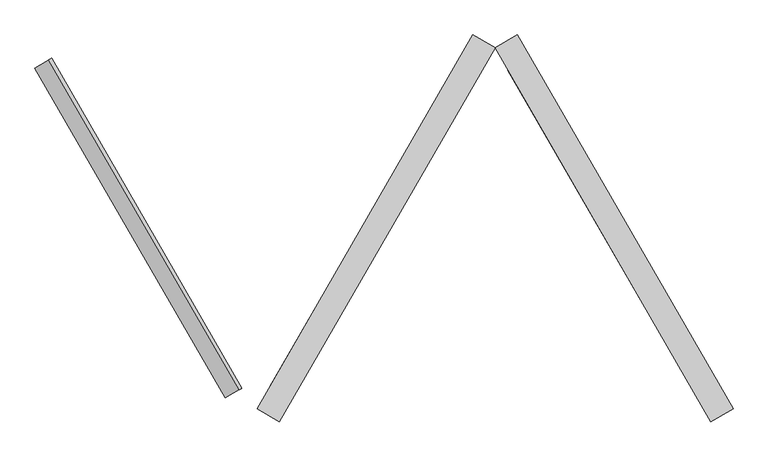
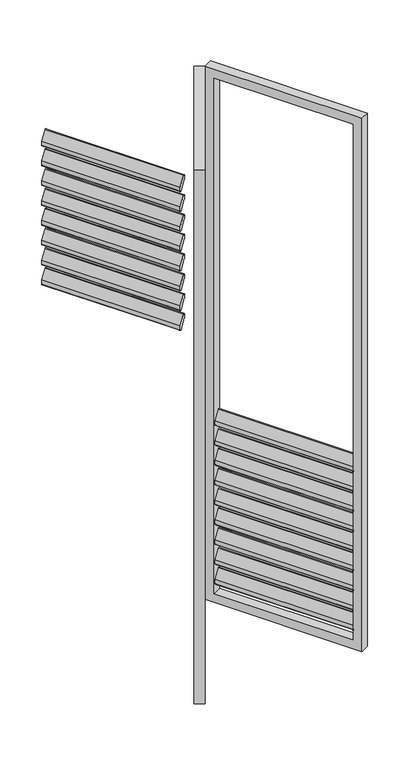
"""IFC4 building model written with IfcOpenShell, lengths in millimetres: proxy geometry, Renson_Amani_Loggia_Paro_Aluminium_Folding : Renson_Amani_Loggia_Paro_Aluminium_Folding."""

from ifc_helpers import new_model, si_unit, point, frame, frame_2d, origin, place, context, project, spatial, polyline, circle_curve, trimmed, segment, composite_curve, outline, extrude, source, transform, mapped, element, save


def generic_models_da8762af(model_context):
    return source(origin(), model_context, "Body", "SweptSolid", [
        extrude(outline(composite_curve([segment(polyline([(-44.0658831, 0.0), (0.8886405, 0.0), (17.0325667, -10.4839883)]), True, "CONTINUOUS"), segment(trimmed(circle_curve(frame_2d((15.3986496, -13.0)), 3.0), [point((17.0325667, -10.4839883))], [point((15.3986496, -16.0))], False, "CARTESIAN"), True, "CONTINUOUS"), segment(polyline([(15.3986496, -16.0), (-28.6672334, -16.0)]), True, "CONTINUOUS"), segment(trimmed(circle_curve(frame_2d((-28.6672334, -13.0)), 3.0), [point((-28.6672334, -16.0))], [point((-30.3011505, -15.5160117))], False, "CARTESIAN"), True, "CONTINUOUS"), segment(polyline([(-30.3011505, -15.5160117), (-45.6998002, -5.5160117)]), True, "CONTINUOUS"), segment(trimmed(circle_curve(frame_2d((-44.0658831, -3.0)), 3.0), [point((-45.6998002, -5.5160117))], [point((-44.0658831, 0.0))], False, "CARTESIAN"), True, "CONTINUOUS")], self_intersect=False)), frame((1067.1094572, 37.7168064, 867.3359298), z_axis=(-0.5000000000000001, 0.8660254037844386, 0.0), x_axis=(-0.47167124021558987, -0.2723195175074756, -0.8386705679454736)), (0.0, 0.0, 1.0), 595.0),
        extrude(outline(composite_curve([segment(polyline([(-44.0658831, 0.0), (0.8886405, 0.0), (17.0325667, -10.4839883)]), True, "CONTINUOUS"), segment(trimmed(circle_curve(frame_2d((15.3986496, -13.0)), 3.0), [point((17.0325667, -10.4839883))], [point((15.3986496, -16.0))], False, "CARTESIAN"), True, "CONTINUOUS"), segment(polyline([(15.3986496, -16.0), (-28.6672334, -16.0)]), True, "CONTINUOUS"), segment(trimmed(circle_curve(frame_2d((-28.6672334, -13.0)), 3.0), [point((-28.6672334, -16.0))], [point((-30.3011505, -15.5160117))], False, "CARTESIAN"), True, "CONTINUOUS"), segment(polyline([(-30.3011505, -15.5160117), (-45.6998002, -5.5160117)]), True, "CONTINUOUS"), segment(trimmed(circle_curve(frame_2d((-44.0658831, -3.0)), 3.0), [point((-45.6998002, -5.5160117))], [point((-44.0658831, 0.0))], False, "CARTESIAN"), True, "CONTINUOUS")], self_intersect=False)), frame((1067.1094572, 37.7168064, 777.3359298), z_axis=(-0.5000000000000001, 0.8660254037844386, 0.0), x_axis=(-0.47167124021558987, -0.2723195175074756, -0.8386705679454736)), (0.0, 0.0, 1.0), 595.0),
        extrude(outline(composite_curve([segment(polyline([(-44.0658831, 0.0), (0.8886405, 0.0), (17.0325667, -10.4839883)]), True, "CONTINUOUS"), segment(trimmed(circle_curve(frame_2d((15.3986496, -13.0)), 3.0), [point((17.0325667, -10.4839883))], [point((15.3986496, -16.0))], False, "CARTESIAN"), True, "CONTINUOUS"), segment(polyline([(15.3986496, -16.0), (-28.6672334, -16.0)]), True, "CONTINUOUS"), segment(trimmed(circle_curve(frame_2d((-28.6672334, -13.0)), 3.0), [point((-28.6672334, -16.0))], [point((-30.3011505, -15.5160117))], False, "CARTESIAN"), True, "CONTINUOUS"), segment(polyline([(-30.3011505, -15.5160117), (-45.6998002, -5.5160117)]), True, "CONTINUOUS"), segment(trimmed(circle_curve(frame_2d((-44.0658831, -3.0)), 3.0), [point((-45.6998002, -5.5160117))], [point((-44.0658831, 0.0))], False, "CARTESIAN"), True, "CONTINUOUS")], self_intersect=False)), frame((1067.1094572, 37.7168064, 687.3359298), z_axis=(-0.5000000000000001, 0.8660254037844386, 0.0), x_axis=(-0.47167124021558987, -0.2723195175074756, -0.8386705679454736)), (0.0, 0.0, 1.0), 595.0),
        extrude(outline(composite_curve([segment(polyline([(-44.0658831, 0.0), (0.8886405, 0.0), (17.0325667, -10.4839883)]), True, "CONTINUOUS"), segment(trimmed(circle_curve(frame_2d((15.3986496, -13.0)), 3.0), [point((17.0325667, -10.4839883))], [point((15.3986496, -16.0))], False, "CARTESIAN"), True, "CONTINUOUS"), segment(polyline([(15.3986496, -16.0), (-28.6672334, -16.0)]), True, "CONTINUOUS"), segment(trimmed(circle_curve(frame_2d((-28.6672334, -13.0)), 3.0), [point((-28.6672334, -16.0))], [point((-30.3011505, -15.5160117))], False, "CARTESIAN"), True, "CONTINUOUS"), segment(polyline([(-30.3011505, -15.5160117), (-45.6998002, -5.5160117)]), True, "CONTINUOUS"), segment(trimmed(circle_curve(frame_2d((-44.0658831, -3.0)), 3.0), [point((-45.6998002, -5.5160117))], [point((-44.0658831, 0.0))], False, "CARTESIAN"), True, "CONTINUOUS")], self_intersect=False)), frame((1067.1094572, 37.7168064, 597.3359298), z_axis=(-0.5000000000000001, 0.8660254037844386, 0.0), x_axis=(-0.47167124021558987, -0.2723195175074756, -0.8386705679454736)), (0.0, 0.0, 1.0), 595.0),
        extrude(outline(composite_curve([segment(polyline([(-44.0658831, 0.0), (0.8886405, 0.0), (17.0325667, -10.4839883)]), True, "CONTINUOUS"), segment(trimmed(circle_curve(frame_2d((15.3986496, -13.0)), 3.0), [point((17.0325667, -10.4839883))], [point((15.3986496, -16.0))], False, "CARTESIAN"), True, "CONTINUOUS"), segment(polyline([(15.3986496, -16.0), (-28.6672334, -16.0)]), True, "CONTINUOUS"), segment(trimmed(circle_curve(frame_2d((-28.6672334, -13.0)), 3.0), [point((-28.6672334, -16.0))], [point((-30.3011505, -15.5160117))], False, "CARTESIAN"), True, "CONTINUOUS"), segment(polyline([(-30.3011505, -15.5160117), (-45.6998002, -5.5160117)]), True, "CONTINUOUS"), segment(trimmed(circle_curve(frame_2d((-44.0658831, -3.0)), 3.0), [point((-45.6998002, -5.5160117))], [point((-44.0658831, 0.0))], False, "CARTESIAN"), True, "CONTINUOUS")], self_intersect=False)), frame((1067.1094572, 37.7168064, 507.3359298), z_axis=(-0.5000000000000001, 0.8660254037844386, 0.0), x_axis=(-0.47167124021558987, -0.2723195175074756, -0.8386705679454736)), (0.0, 0.0, 1.0), 595.0),
        extrude(outline(composite_curve([segment(polyline([(-44.0658831, 0.0), (0.8886405, 0.0), (17.0325667, -10.4839883)]), True, "CONTINUOUS"), segment(trimmed(circle_curve(frame_2d((15.3986496, -13.0)), 3.0), [point((17.0325667, -10.4839883))], [point((15.3986496, -16.0))], False, "CARTESIAN"), True, "CONTINUOUS"), segment(polyline([(15.3986496, -16.0), (-28.6672334, -16.0)]), True, "CONTINUOUS"), segment(trimmed(circle_curve(frame_2d((-28.6672334, -13.0)), 3.0), [point((-28.6672334, -16.0))], [point((-30.3011505, -15.5160117))], False, "CARTESIAN"), True, "CONTINUOUS"), segment(polyline([(-30.3011505, -15.5160117), (-45.6998002, -5.5160117)]), True, "CONTINUOUS"), segment(trimmed(circle_curve(frame_2d((-44.0658831, -3.0)), 3.0), [point((-45.6998002, -5.5160117))], [point((-44.0658831, 0.0))], False, "CARTESIAN"), True, "CONTINUOUS")], self_intersect=False)), frame((1067.1094572, 37.7168064, 417.3359298), z_axis=(-0.5000000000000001, 0.8660254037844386, 0.0), x_axis=(-0.47167124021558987, -0.2723195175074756, -0.8386705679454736)), (0.0, 0.0, 1.0), 595.0),
        extrude(outline(composite_curve([segment(polyline([(-44.0658831, 0.0), (0.8886405, 0.0), (17.0325667, -10.4839883)]), True, "CONTINUOUS"), segment(trimmed(circle_curve(frame_2d((15.3986496, -13.0)), 3.0), [point((17.0325667, -10.4839883))], [point((15.3986496, -16.0))], False, "CARTESIAN"), True, "CONTINUOUS"), segment(polyline([(15.3986496, -16.0), (-28.6672334, -16.0)]), True, "CONTINUOUS"), segment(trimmed(circle_curve(frame_2d((-28.6672334, -13.0)), 3.0), [point((-28.6672334, -16.0))], [point((-30.3011505, -15.5160117))], False, "CARTESIAN"), True, "CONTINUOUS"), segment(polyline([(-30.3011505, -15.5160117), (-45.6998002, -5.5160117)]), True, "CONTINUOUS"), segment(trimmed(circle_curve(frame_2d((-44.0658831, -3.0)), 3.0), [point((-45.6998002, -5.5160117))], [point((-44.0658831, 0.0))], False, "CARTESIAN"), True, "CONTINUOUS")], self_intersect=False)), frame((1067.1094572, 37.7168064, 327.3359298), z_axis=(-0.5000000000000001, 0.8660254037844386, 0.0), x_axis=(-0.47167124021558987, -0.2723195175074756, -0.8386705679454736)), (0.0, 0.0, 1.0), 595.0),
        extrude(outline(composite_curve([segment(polyline([(-44.0658831, 0.0), (0.8886405, 0.0), (17.0325667, -10.4839883)]), True, "CONTINUOUS"), segment(trimmed(circle_curve(frame_2d((15.3986496, -13.0)), 3.0), [point((17.0325667, -10.4839883))], [point((15.3986496, -16.0))], False, "CARTESIAN"), True, "CONTINUOUS"), segment(polyline([(15.3986496, -16.0), (-28.6672334, -16.0)]), True, "CONTINUOUS"), segment(trimmed(circle_curve(frame_2d((-28.6672334, -13.0)), 3.0), [point((-28.6672334, -16.0))], [point((-30.3011505, -15.5160117))], False, "CARTESIAN"), True, "CONTINUOUS"), segment(polyline([(-30.3011505, -15.5160117), (-45.6998002, -5.5160117)]), True, "CONTINUOUS"), segment(trimmed(circle_curve(frame_2d((-44.0658831, -3.0)), 3.0), [point((-45.6998002, -5.5160117))], [point((-44.0658831, 0.0))], False, "CARTESIAN"), True, "CONTINUOUS")], self_intersect=False)), frame((1067.1094572, 37.7168064, 237.3359298), z_axis=(-0.5000000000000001, 0.8660254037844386, 0.0), x_axis=(-0.47167124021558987, -0.2723195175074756, -0.8386705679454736)), (0.0, 0.0, 1.0), 595.0),
        extrude(outline(composite_curve([segment(polyline([(-44.0658831, 0.0), (0.8886405, 0.0), (17.0325667, -10.4839883)]), True, "CONTINUOUS"), segment(trimmed(circle_curve(frame_2d((15.3986496, -13.0)), 3.0), [point((17.0325667, -10.4839883))], [point((15.3986496, -16.0))], False, "CARTESIAN"), True, "CONTINUOUS"), segment(polyline([(15.3986496, -16.0), (-28.6672334, -16.0)]), True, "CONTINUOUS"), segment(trimmed(circle_curve(frame_2d((-28.6672334, -13.0)), 3.0), [point((-28.6672334, -16.0))], [point((-30.3011505, -15.5160117))], False, "CARTESIAN"), True, "CONTINUOUS"), segment(polyline([(-30.3011505, -15.5160117), (-45.6998002, -5.5160117)]), True, "CONTINUOUS"), segment(trimmed(circle_curve(frame_2d((-44.0658831, -3.0)), 3.0), [point((-45.6998002, -5.5160117))], [point((-44.0658831, 0.0))], False, "CARTESIAN"), True, "CONTINUOUS")], self_intersect=False)), frame((1067.1094572, 37.7168064, 147.3359298), z_axis=(-0.5000000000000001, 0.8660254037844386, 0.0), x_axis=(-0.47167124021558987, -0.2723195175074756, -0.8386705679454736)), (0.0, 0.0, 1.0), 595.0),
        extrude(outline(polyline([(2380.0, -40.0), (-40.0, -40.0), (-40.0, 635.0), (2380.0, 635.0), (2380.0, -40.0)]), holes=[polyline([(2340.0, 595.0), (0.0, 595.0), (0.0, 0.0), (2340.0, 0.0), (2340.0, 595.0)])]), frame((764.2820323, 549.9261314, 85.0), z_axis=(0.8660254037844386, 0.5000000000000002, 0.0), x_axis=(0.0, 0.0, 1.0)), (0.0, 0.0, 1.0), 40.0),
        extrude(outline(composite_curve([segment(trimmed(circle_curve(frame_2d((44.0658831, -3.0)), 3.0), [point((44.0658831, 0.0))], [point((45.6998002, -5.5160117))], False, "CARTESIAN"), True, "CONTINUOUS"), segment(polyline([(45.6998002, -5.5160117), (30.3011505, -15.5160117)]), True, "CONTINUOUS"), segment(trimmed(circle_curve(frame_2d((28.6672334, -13.0)), 3.0), [point((30.3011505, -15.5160117))], [point((28.6672334, -16.0))], False, "CARTESIAN"), True, "CONTINUOUS"), segment(polyline([(28.6672334, -16.0), (-15.3986496, -16.0)]), True, "CONTINUOUS"), segment(trimmed(circle_curve(frame_2d((-15.3986496, -13.0)), 3.0), [point((-15.3986496, -16.0))], [point((-17.0325667, -10.4839883))], False, "CARTESIAN"), True, "CONTINUOUS"), segment(polyline([(-17.0325667, -10.4839883), (-0.8886405, 0.0), (44.0658831, 0.0)]), True, "CONTINUOUS")], self_intersect=False)), frame((421.4546074, 37.7168064, 2397.3359298), z_axis=(0.5000000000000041, 0.8660254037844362, 0.0), x_axis=(-0.47167124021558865, 0.2723195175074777, 0.8386705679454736)), (0.0, 0.0, 1.0), 595.0),
        extrude(outline(composite_curve([segment(trimmed(circle_curve(frame_2d((44.0658831, -3.0)), 3.0), [point((44.0658831, 0.0))], [point((45.6998002, -5.5160117))], False, "CARTESIAN"), True, "CONTINUOUS"), segment(polyline([(45.6998002, -5.5160117), (30.3011505, -15.5160117)]), True, "CONTINUOUS"), segment(trimmed(circle_curve(frame_2d((28.6672334, -13.0)), 3.0), [point((30.3011505, -15.5160117))], [point((28.6672334, -16.0))], False, "CARTESIAN"), True, "CONTINUOUS"), segment(polyline([(28.6672334, -16.0), (-15.3986496, -16.0)]), True, "CONTINUOUS"), segment(trimmed(circle_curve(frame_2d((-15.3986496, -13.0)), 3.0), [point((-15.3986496, -16.0))], [point((-17.0325667, -10.4839883))], False, "CARTESIAN"), True, "CONTINUOUS"), segment(polyline([(-17.0325667, -10.4839883), (-0.8886405, 0.0), (44.0658831, 0.0)]), True, "CONTINUOUS")], self_intersect=False)), frame((421.4546074, 37.7168064, 2307.3359298), z_axis=(0.5000000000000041, 0.8660254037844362, 0.0), x_axis=(-0.47167124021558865, 0.2723195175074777, 0.8386705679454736)), (0.0, 0.0, 1.0), 595.0),
        extrude(outline(composite_curve([segment(trimmed(circle_curve(frame_2d((44.0658831, -3.0)), 3.0), [point((44.0658831, 0.0))], [point((45.6998002, -5.5160117))], False, "CARTESIAN"), True, "CONTINUOUS"), segment(polyline([(45.6998002, -5.5160117), (30.3011505, -15.5160117)]), True, "CONTINUOUS"), segment(trimmed(circle_curve(frame_2d((28.6672334, -13.0)), 3.0), [point((30.3011505, -15.5160117))], [point((28.6672334, -16.0))], False, "CARTESIAN"), True, "CONTINUOUS"), segment(polyline([(28.6672334, -16.0), (-15.3986496, -16.0)]), True, "CONTINUOUS"), segment(trimmed(circle_curve(frame_2d((-15.3986496, -13.0)), 3.0), [point((-15.3986496, -16.0))], [point((-17.0325667, -10.4839883))], False, "CARTESIAN"), True, "CONTINUOUS"), segment(polyline([(-17.0325667, -10.4839883), (-0.8886405, 0.0), (44.0658831, 0.0)]), True, "CONTINUOUS")], self_intersect=False)), frame((421.4546074, 37.7168064, 2217.3359298), z_axis=(0.5000000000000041, 0.8660254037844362, 0.0), x_axis=(-0.47167124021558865, 0.2723195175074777, 0.8386705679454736)), (0.0, 0.0, 1.0), 595.0),
        extrude(outline(composite_curve([segment(trimmed(circle_curve(frame_2d((44.0658831, -3.0)), 3.0), [point((44.0658831, 0.0))], [point((45.6998002, -5.5160117))], False, "CARTESIAN"), True, "CONTINUOUS"), segment(polyline([(45.6998002, -5.5160117), (30.3011505, -15.5160117)]), True, "CONTINUOUS"), segment(trimmed(circle_curve(frame_2d((28.6672334, -13.0)), 3.0), [point((30.3011505, -15.5160117))], [point((28.6672334, -16.0))], False, "CARTESIAN"), True, "CONTINUOUS"), segment(polyline([(28.6672334, -16.0), (-15.3986496, -16.0)]), True, "CONTINUOUS"), segment(trimmed(circle_curve(frame_2d((-15.3986496, -13.0)), 3.0), [point((-15.3986496, -16.0))], [point((-17.0325667, -10.4839883))], False, "CARTESIAN"), True, "CONTINUOUS"), segment(polyline([(-17.0325667, -10.4839883), (-0.8886405, 0.0), (44.0658831, 0.0)]), True, "CONTINUOUS")], self_intersect=False)), frame((421.4546074, 37.7168064, 2127.3359298), z_axis=(0.5000000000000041, 0.8660254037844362, 0.0), x_axis=(-0.47167124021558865, 0.2723195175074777, 0.8386705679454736)), (0.0, 0.0, 1.0), 595.0),
        extrude(outline(composite_curve([segment(trimmed(circle_curve(frame_2d((44.0658831, -3.0)), 3.0), [point((44.0658831, 0.0))], [point((45.6998002, -5.5160117))], False, "CARTESIAN"), True, "CONTINUOUS"), segment(polyline([(45.6998002, -5.5160117), (30.3011505, -15.5160117)]), True, "CONTINUOUS"), segment(trimmed(circle_curve(frame_2d((28.6672334, -13.0)), 3.0), [point((30.3011505, -15.5160117))], [point((28.6672334, -16.0))], False, "CARTESIAN"), True, "CONTINUOUS"), segment(polyline([(28.6672334, -16.0), (-15.3986496, -16.0)]), True, "CONTINUOUS"), segment(trimmed(circle_curve(frame_2d((-15.3986496, -13.0)), 3.0), [point((-15.3986496, -16.0))], [point((-17.0325667, -10.4839883))], False, "CARTESIAN"), True, "CONTINUOUS"), segment(polyline([(-17.0325667, -10.4839883), (-0.8886405, 0.0), (44.0658831, 0.0)]), True, "CONTINUOUS")], self_intersect=False)), frame((421.4546074, 37.7168064, 2037.3359298), z_axis=(0.5000000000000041, 0.8660254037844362, 0.0), x_axis=(-0.47167124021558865, 0.2723195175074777, 0.8386705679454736)), (0.0, 0.0, 1.0), 595.0),
        extrude(outline(composite_curve([segment(trimmed(circle_curve(frame_2d((44.0658831, -3.0)), 3.0), [point((44.0658831, 0.0))], [point((45.6998002, -5.5160117))], False, "CARTESIAN"), True, "CONTINUOUS"), segment(polyline([(45.6998002, -5.5160117), (30.3011505, -15.5160117)]), True, "CONTINUOUS"), segment(trimmed(circle_curve(frame_2d((28.6672334, -13.0)), 3.0), [point((30.3011505, -15.5160117))], [point((28.6672334, -16.0))], False, "CARTESIAN"), True, "CONTINUOUS"), segment(polyline([(28.6672334, -16.0), (-15.3986496, -16.0)]), True, "CONTINUOUS"), segment(trimmed(circle_curve(frame_2d((-15.3986496, -13.0)), 3.0), [point((-15.3986496, -16.0))], [point((-17.0325667, -10.4839883))], False, "CARTESIAN"), True, "CONTINUOUS"), segment(polyline([(-17.0325667, -10.4839883), (-0.8886405, 0.0), (44.0658831, 0.0)]), True, "CONTINUOUS")], self_intersect=False)), frame((421.4546074, 37.7168064, 1947.3359298), z_axis=(0.5000000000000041, 0.8660254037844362, 0.0), x_axis=(-0.47167124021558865, 0.2723195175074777, 0.8386705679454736)), (0.0, 0.0, 1.0), 595.0),
        extrude(outline(composite_curve([segment(trimmed(circle_curve(frame_2d((44.0658831, -3.0)), 3.0), [point((44.0658831, 0.0))], [point((45.6998002, -5.5160117))], False, "CARTESIAN"), True, "CONTINUOUS"), segment(polyline([(45.6998002, -5.5160117), (30.3011505, -15.5160117)]), True, "CONTINUOUS"), segment(trimmed(circle_curve(frame_2d((28.6672334, -13.0)), 3.0), [point((30.3011505, -15.5160117))], [point((28.6672334, -16.0))], False, "CARTESIAN"), True, "CONTINUOUS"), segment(polyline([(28.6672334, -16.0), (-15.3986496, -16.0)]), True, "CONTINUOUS"), segment(trimmed(circle_curve(frame_2d((-15.3986496, -13.0)), 3.0), [point((-15.3986496, -16.0))], [point((-17.0325667, -10.4839883))], False, "CARTESIAN"), True, "CONTINUOUS"), segment(polyline([(-17.0325667, -10.4839883), (-0.8886405, 0.0), (44.0658831, 0.0)]), True, "CONTINUOUS")], self_intersect=False)), frame((421.4546074, 37.7168064, 1857.3359298), z_axis=(0.5000000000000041, 0.8660254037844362, 0.0), x_axis=(-0.47167124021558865, 0.2723195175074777, 0.8386705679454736)), (0.0, 0.0, 1.0), 595.0),
        extrude(outline(composite_curve([segment(trimmed(circle_curve(frame_2d((44.0658831, -3.0)), 3.0), [point((44.0658831, 0.0))], [point((45.6998002, -5.5160117))], False, "CARTESIAN"), True, "CONTINUOUS"), segment(polyline([(45.6998002, -5.5160117), (30.3011505, -15.5160117)]), True, "CONTINUOUS"), segment(trimmed(circle_curve(frame_2d((28.6672334, -13.0)), 3.0), [point((30.3011505, -15.5160117))], [point((28.6672334, -16.0))], False, "CARTESIAN"), True, "CONTINUOUS"), segment(polyline([(28.6672334, -16.0), (-15.3986496, -16.0)]), True, "CONTINUOUS"), segment(trimmed(circle_curve(frame_2d((-15.3986496, -13.0)), 3.0), [point((-15.3986496, -16.0))], [point((-17.0325667, -10.4839883))], False, "CARTESIAN"), True, "CONTINUOUS"), segment(polyline([(-17.0325667, -10.4839883), (-0.8886405, 0.0), (44.0658831, 0.0)]), True, "CONTINUOUS")], self_intersect=False)), frame((421.4546074, 37.7168064, 1767.3359298), z_axis=(0.5000000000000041, 0.8660254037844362, 0.0), x_axis=(-0.47167124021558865, 0.2723195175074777, 0.8386705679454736)), (0.0, 0.0, 1.0), 595.0),
        extrude(outline(composite_curve([segment(trimmed(circle_curve(frame_2d((44.0658831, -3.0)), 3.0), [point((44.0658831, 0.0))], [point((45.6998002, -5.5160117))], False, "CARTESIAN"), True, "CONTINUOUS"), segment(polyline([(45.6998002, -5.5160117), (30.3011505, -15.5160117)]), True, "CONTINUOUS"), segment(trimmed(circle_curve(frame_2d((28.6672334, -13.0)), 3.0), [point((30.3011505, -15.5160117))], [point((28.6672334, -16.0))], False, "CARTESIAN"), True, "CONTINUOUS"), segment(polyline([(28.6672334, -16.0), (-15.3986496, -16.0)]), True, "CONTINUOUS"), segment(trimmed(circle_curve(frame_2d((-15.3986496, -13.0)), 3.0), [point((-15.3986496, -16.0))], [point((-17.0325667, -10.4839883))], False, "CARTESIAN"), True, "CONTINUOUS"), segment(polyline([(-17.0325667, -10.4839883), (-0.8886405, 0.0), (44.0658831, 0.0)]), True, "CONTINUOUS")], self_intersect=False)), frame((421.4546074, 37.7168064, 1677.3359298), z_axis=(0.5000000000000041, 0.8660254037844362, 0.0), x_axis=(-0.47167124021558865, 0.2723195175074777, 0.8386705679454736)), (0.0, 0.0, 1.0), 595.0),
        extrude(outline(composite_curve([segment(trimmed(circle_curve(frame_2d((44.0658831, -3.0)), 3.0), [point((44.0658831, 0.0))], [point((45.6998002, -5.5160117))], False, "CARTESIAN"), True, "CONTINUOUS"), segment(polyline([(45.6998002, -5.5160117), (30.3011505, -15.5160117)]), True, "CONTINUOUS"), segment(trimmed(circle_curve(frame_2d((28.6672334, -13.0)), 3.0), [point((30.3011505, -15.5160117))], [point((28.6672334, -16.0))], False, "CARTESIAN"), True, "CONTINUOUS"), segment(polyline([(28.6672334, -16.0), (-15.3986496, -16.0)]), True, "CONTINUOUS"), segment(trimmed(circle_curve(frame_2d((-15.3986496, -13.0)), 3.0), [point((-15.3986496, -16.0))], [point((-17.0325667, -10.4839883))], False, "CARTESIAN"), True, "CONTINUOUS"), segment(polyline([(-17.0325667, -10.4839883), (-0.8886405, 0.0), (44.0658831, 0.0)]), True, "CONTINUOUS")], self_intersect=False)), frame((421.4546074, 37.7168064, 1587.3359298), z_axis=(0.5000000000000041, 0.8660254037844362, 0.0), x_axis=(-0.47167124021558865, 0.2723195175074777, 0.8386705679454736)), (0.0, 0.0, 1.0), 595.0),
        extrude(outline(composite_curve([segment(trimmed(circle_curve(frame_2d((44.0658831, -3.0)), 3.0), [point((44.0658831, 0.0))], [point((45.6998002, -5.5160117))], False, "CARTESIAN"), True, "CONTINUOUS"), segment(polyline([(45.6998002, -5.5160117), (30.3011505, -15.5160117)]), True, "CONTINUOUS"), segment(trimmed(circle_curve(frame_2d((28.6672334, -13.0)), 3.0), [point((30.3011505, -15.5160117))], [point((28.6672334, -16.0))], False, "CARTESIAN"), True, "CONTINUOUS"), segment(polyline([(28.6672334, -16.0), (-15.3986496, -16.0)]), True, "CONTINUOUS"), segment(trimmed(circle_curve(frame_2d((-15.3986496, -13.0)), 3.0), [point((-15.3986496, -16.0))], [point((-17.0325667, -10.4839883))], False, "CARTESIAN"), True, "CONTINUOUS"), segment(polyline([(-17.0325667, -10.4839883), (-0.8886405, 0.0), (44.0658831, 0.0)]), True, "CONTINUOUS")], self_intersect=False)), frame((421.4546074, 37.7168064, 1497.3359298), z_axis=(0.5000000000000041, 0.8660254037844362, 0.0), x_axis=(-0.47167124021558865, 0.2723195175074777, 0.8386705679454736)), (0.0, 0.0, 1.0), 595.0),
        extrude(outline(composite_curve([segment(trimmed(circle_curve(frame_2d((44.0658831, -3.0)), 3.0), [point((44.0658831, 0.0))], [point((45.6998002, -5.5160117))], False, "CARTESIAN"), True, "CONTINUOUS"), segment(polyline([(45.6998002, -5.5160117), (30.3011505, -15.5160117)]), True, "CONTINUOUS"), segment(trimmed(circle_curve(frame_2d((28.6672334, -13.0)), 3.0), [point((30.3011505, -15.5160117))], [point((28.6672334, -16.0))], False, "CARTESIAN"), True, "CONTINUOUS"), segment(polyline([(28.6672334, -16.0), (-15.3986496, -16.0)]), True, "CONTINUOUS"), segment(trimmed(circle_curve(frame_2d((-15.3986496, -13.0)), 3.0), [point((-15.3986496, -16.0))], [point((-17.0325667, -10.4839883))], False, "CARTESIAN"), True, "CONTINUOUS"), segment(polyline([(-17.0325667, -10.4839883), (-0.8886405, 0.0), (44.0658831, 0.0)]), True, "CONTINUOUS")], self_intersect=False)), frame((421.4546074, 37.7168064, 1407.3359298), z_axis=(0.5000000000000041, 0.8660254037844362, 0.0), x_axis=(-0.47167124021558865, 0.2723195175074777, 0.8386705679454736)), (0.0, 0.0, 1.0), 595.0),
        extrude(outline(composite_curve([segment(trimmed(circle_curve(frame_2d((44.0658831, -3.0)), 3.0), [point((44.0658831, 0.0))], [point((45.6998002, -5.5160117))], False, "CARTESIAN"), True, "CONTINUOUS"), segment(polyline([(45.6998002, -5.5160117), (30.3011505, -15.5160117)]), True, "CONTINUOUS"), segment(trimmed(circle_curve(frame_2d((28.6672334, -13.0)), 3.0), [point((30.3011505, -15.5160117))], [point((28.6672334, -16.0))], False, "CARTESIAN"), True, "CONTINUOUS"), segment(polyline([(28.6672334, -16.0), (-15.3986496, -16.0)]), True, "CONTINUOUS"), segment(trimmed(circle_curve(frame_2d((-15.3986496, -13.0)), 3.0), [point((-15.3986496, -16.0))], [point((-17.0325667, -10.4839883))], False, "CARTESIAN"), True, "CONTINUOUS"), segment(polyline([(-17.0325667, -10.4839883), (-0.8886405, 0.0), (44.0658831, 0.0)]), True, "CONTINUOUS")], self_intersect=False)), frame((421.4546074, 37.7168064, 1317.3359298), z_axis=(0.5000000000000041, 0.8660254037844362, 0.0), x_axis=(-0.47167124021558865, 0.2723195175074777, 0.8386705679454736)), (0.0, 0.0, 1.0), 595.0),
        extrude(outline(composite_curve([segment(trimmed(circle_curve(frame_2d((44.0658831, -3.0)), 3.0), [point((44.0658831, 0.0))], [point((45.6998002, -5.5160117))], False, "CARTESIAN"), True, "CONTINUOUS"), segment(polyline([(45.6998002, -5.5160117), (30.3011505, -15.5160117)]), True, "CONTINUOUS"), segment(trimmed(circle_curve(frame_2d((28.6672334, -13.0)), 3.0), [point((30.3011505, -15.5160117))], [point((28.6672334, -16.0))], False, "CARTESIAN"), True, "CONTINUOUS"), segment(polyline([(28.6672334, -16.0), (-15.3986496, -16.0)]), True, "CONTINUOUS"), segment(trimmed(circle_curve(frame_2d((-15.3986496, -13.0)), 3.0), [point((-15.3986496, -16.0))], [point((-17.0325667, -10.4839883))], False, "CARTESIAN"), True, "CONTINUOUS"), segment(polyline([(-17.0325667, -10.4839883), (-0.8886405, 0.0), (44.0658831, 0.0)]), True, "CONTINUOUS")], self_intersect=False)), frame((421.4546074, 37.7168064, 1227.3359298), z_axis=(0.5000000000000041, 0.8660254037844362, 0.0), x_axis=(-0.47167124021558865, 0.2723195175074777, 0.8386705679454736)), (0.0, 0.0, 1.0), 595.0),
        extrude(outline(composite_curve([segment(trimmed(circle_curve(frame_2d((44.0658831, -3.0)), 3.0), [point((44.0658831, 0.0))], [point((45.6998002, -5.5160117))], False, "CARTESIAN"), True, "CONTINUOUS"), segment(polyline([(45.6998002, -5.5160117), (30.3011505, -15.5160117)]), True, "CONTINUOUS"), segment(trimmed(circle_curve(frame_2d((28.6672334, -13.0)), 3.0), [point((30.3011505, -15.5160117))], [point((28.6672334, -16.0))], False, "CARTESIAN"), True, "CONTINUOUS"), segment(polyline([(28.6672334, -16.0), (-15.3986496, -16.0)]), True, "CONTINUOUS"), segment(trimmed(circle_curve(frame_2d((-15.3986496, -13.0)), 3.0), [point((-15.3986496, -16.0))], [point((-17.0325667, -10.4839883))], False, "CARTESIAN"), True, "CONTINUOUS"), segment(polyline([(-17.0325667, -10.4839883), (-0.8886405, 0.0), (44.0658831, 0.0)]), True, "CONTINUOUS")], self_intersect=False)), frame((421.4546074, 37.7168064, 1137.3359298), z_axis=(0.5000000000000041, 0.8660254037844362, 0.0), x_axis=(-0.47167124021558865, 0.2723195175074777, 0.8386705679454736)), (0.0, 0.0, 1.0), 595.0),
        extrude(outline(composite_curve([segment(trimmed(circle_curve(frame_2d((44.0658831, -3.0)), 3.0), [point((44.0658831, 0.0))], [point((45.6998002, -5.5160117))], False, "CARTESIAN"), True, "CONTINUOUS"), segment(polyline([(45.6998002, -5.5160117), (30.3011505, -15.5160117)]), True, "CONTINUOUS"), segment(trimmed(circle_curve(frame_2d((28.6672334, -13.0)), 3.0), [point((30.3011505, -15.5160117))], [point((28.6672334, -16.0))], False, "CARTESIAN"), True, "CONTINUOUS"), segment(polyline([(28.6672334, -16.0), (-15.3986496, -16.0)]), True, "CONTINUOUS"), segment(trimmed(circle_curve(frame_2d((-15.3986496, -13.0)), 3.0), [point((-15.3986496, -16.0))], [point((-17.0325667, -10.4839883))], False, "CARTESIAN"), True, "CONTINUOUS"), segment(polyline([(-17.0325667, -10.4839883), (-0.8886405, 0.0), (44.0658831, 0.0)]), True, "CONTINUOUS")], self_intersect=False)), frame((421.4546074, 37.7168064, 1047.3359298), z_axis=(0.5000000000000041, 0.8660254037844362, 0.0), x_axis=(-0.47167124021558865, 0.2723195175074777, 0.8386705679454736)), (0.0, 0.0, 1.0), 595.0),
        extrude(outline(composite_curve([segment(trimmed(circle_curve(frame_2d((44.0658831, -3.0)), 3.0), [point((44.0658831, 0.0))], [point((45.6998002, -5.5160117))], False, "CARTESIAN"), True, "CONTINUOUS"), segment(polyline([(45.6998002, -5.5160117), (30.3011505, -15.5160117)]), True, "CONTINUOUS"), segment(trimmed(circle_curve(frame_2d((28.6672334, -13.0)), 3.0), [point((30.3011505, -15.5160117))], [point((28.6672334, -16.0))], False, "CARTESIAN"), True, "CONTINUOUS"), segment(polyline([(28.6672334, -16.0), (-15.3986496, -16.0)]), True, "CONTINUOUS"), segment(trimmed(circle_curve(frame_2d((-15.3986496, -13.0)), 3.0), [point((-15.3986496, -16.0))], [point((-17.0325667, -10.4839883))], False, "CARTESIAN"), True, "CONTINUOUS"), segment(polyline([(-17.0325667, -10.4839883), (-0.8886405, 0.0), (44.0658831, 0.0)]), True, "CONTINUOUS")], self_intersect=False)), frame((421.4546074, 37.7168064, 957.3359298), z_axis=(0.5000000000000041, 0.8660254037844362, 0.0), x_axis=(-0.47167124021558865, 0.2723195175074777, 0.8386705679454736)), (0.0, 0.0, 1.0), 595.0),
        extrude(outline(composite_curve([segment(trimmed(circle_curve(frame_2d((44.0658831, -3.0)), 3.0), [point((44.0658831, 0.0))], [point((45.6998002, -5.5160117))], False, "CARTESIAN"), True, "CONTINUOUS"), segment(polyline([(45.6998002, -5.5160117), (30.3011505, -15.5160117)]), True, "CONTINUOUS"), segment(trimmed(circle_curve(frame_2d((28.6672334, -13.0)), 3.0), [point((30.3011505, -15.5160117))], [point((28.6672334, -16.0))], False, "CARTESIAN"), True, "CONTINUOUS"), segment(polyline([(28.6672334, -16.0), (-15.3986496, -16.0)]), True, "CONTINUOUS"), segment(trimmed(circle_curve(frame_2d((-15.3986496, -13.0)), 3.0), [point((-15.3986496, -16.0))], [point((-17.0325667, -10.4839883))], False, "CARTESIAN"), True, "CONTINUOUS"), segment(polyline([(-17.0325667, -10.4839883), (-0.8886405, 0.0), (44.0658831, 0.0)]), True, "CONTINUOUS")], self_intersect=False)), frame((421.4546074, 37.7168064, 867.3359298), z_axis=(0.5000000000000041, 0.8660254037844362, 0.0), x_axis=(-0.47167124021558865, 0.2723195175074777, 0.8386705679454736)), (0.0, 0.0, 1.0), 595.0),
        extrude(outline(composite_curve([segment(trimmed(circle_curve(frame_2d((44.0658831, -3.0)), 3.0), [point((44.0658831, 0.0))], [point((45.6998002, -5.5160117))], False, "CARTESIAN"), True, "CONTINUOUS"), segment(polyline([(45.6998002, -5.5160117), (30.3011505, -15.5160117)]), True, "CONTINUOUS"), segment(trimmed(circle_curve(frame_2d((28.6672334, -13.0)), 3.0), [point((30.3011505, -15.5160117))], [point((28.6672334, -16.0))], False, "CARTESIAN"), True, "CONTINUOUS"), segment(polyline([(28.6672334, -16.0), (-15.3986496, -16.0)]), True, "CONTINUOUS"), segment(trimmed(circle_curve(frame_2d((-15.3986496, -13.0)), 3.0), [point((-15.3986496, -16.0))], [point((-17.0325667, -10.4839883))], False, "CARTESIAN"), True, "CONTINUOUS"), segment(polyline([(-17.0325667, -10.4839883), (-0.8886405, 0.0), (44.0658831, 0.0)]), True, "CONTINUOUS")], self_intersect=False)), frame((421.4546074, 37.7168064, 777.3359298), z_axis=(0.5000000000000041, 0.8660254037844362, 0.0), x_axis=(-0.47167124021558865, 0.2723195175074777, 0.8386705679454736)), (0.0, 0.0, 1.0), 595.0),
        extrude(outline(composite_curve([segment(trimmed(circle_curve(frame_2d((44.0658831, -3.0)), 3.0), [point((44.0658831, 0.0))], [point((45.6998002, -5.5160117))], False, "CARTESIAN"), True, "CONTINUOUS"), segment(polyline([(45.6998002, -5.5160117), (30.3011505, -15.5160117)]), True, "CONTINUOUS"), segment(trimmed(circle_curve(frame_2d((28.6672334, -13.0)), 3.0), [point((30.3011505, -15.5160117))], [point((28.6672334, -16.0))], False, "CARTESIAN"), True, "CONTINUOUS"), segment(polyline([(28.6672334, -16.0), (-15.3986496, -16.0)]), True, "CONTINUOUS"), segment(trimmed(circle_curve(frame_2d((-15.3986496, -13.0)), 3.0), [point((-15.3986496, -16.0))], [point((-17.0325667, -10.4839883))], False, "CARTESIAN"), True, "CONTINUOUS"), segment(polyline([(-17.0325667, -10.4839883), (-0.8886405, 0.0), (44.0658831, 0.0)]), True, "CONTINUOUS")], self_intersect=False)), frame((421.4546074, 37.7168064, 687.3359298), z_axis=(0.5000000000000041, 0.8660254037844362, 0.0), x_axis=(-0.47167124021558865, 0.2723195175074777, 0.8386705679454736)), (0.0, 0.0, 1.0), 595.0),
        extrude(outline(composite_curve([segment(trimmed(circle_curve(frame_2d((44.0658831, -3.0)), 3.0), [point((44.0658831, 0.0))], [point((45.6998002, -5.5160117))], False, "CARTESIAN"), True, "CONTINUOUS"), segment(polyline([(45.6998002, -5.5160117), (30.3011505, -15.5160117)]), True, "CONTINUOUS"), segment(trimmed(circle_curve(frame_2d((28.6672334, -13.0)), 3.0), [point((30.3011505, -15.5160117))], [point((28.6672334, -16.0))], False, "CARTESIAN"), True, "CONTINUOUS"), segment(polyline([(28.6672334, -16.0), (-15.3986496, -16.0)]), True, "CONTINUOUS"), segment(trimmed(circle_curve(frame_2d((-15.3986496, -13.0)), 3.0), [point((-15.3986496, -16.0))], [point((-17.0325667, -10.4839883))], False, "CARTESIAN"), True, "CONTINUOUS"), segment(polyline([(-17.0325667, -10.4839883), (-0.8886405, 0.0), (44.0658831, 0.0)]), True, "CONTINUOUS")], self_intersect=False)), frame((421.4546074, 37.7168064, 597.3359298), z_axis=(0.5000000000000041, 0.8660254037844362, 0.0), x_axis=(-0.47167124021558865, 0.2723195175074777, 0.8386705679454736)), (0.0, 0.0, 1.0), 595.0),
        extrude(outline(composite_curve([segment(trimmed(circle_curve(frame_2d((44.0658831, -3.0)), 3.0), [point((44.0658831, 0.0))], [point((45.6998002, -5.5160117))], False, "CARTESIAN"), True, "CONTINUOUS"), segment(polyline([(45.6998002, -5.5160117), (30.3011505, -15.5160117)]), True, "CONTINUOUS"), segment(trimmed(circle_curve(frame_2d((28.6672334, -13.0)), 3.0), [point((30.3011505, -15.5160117))], [point((28.6672334, -16.0))], False, "CARTESIAN"), True, "CONTINUOUS"), segment(polyline([(28.6672334, -16.0), (-15.3986496, -16.0)]), True, "CONTINUOUS"), segment(trimmed(circle_curve(frame_2d((-15.3986496, -13.0)), 3.0), [point((-15.3986496, -16.0))], [point((-17.0325667, -10.4839883))], False, "CARTESIAN"), True, "CONTINUOUS"), segment(polyline([(-17.0325667, -10.4839883), (-0.8886405, 0.0), (44.0658831, 0.0)]), True, "CONTINUOUS")], self_intersect=False)), frame((421.4546074, 37.7168064, 507.3359298), z_axis=(0.5000000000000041, 0.8660254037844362, 0.0), x_axis=(-0.47167124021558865, 0.2723195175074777, 0.8386705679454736)), (0.0, 0.0, 1.0), 595.0),
        extrude(outline(composite_curve([segment(trimmed(circle_curve(frame_2d((44.0658831, -3.0)), 3.0), [point((44.0658831, 0.0))], [point((45.6998002, -5.5160117))], False, "CARTESIAN"), True, "CONTINUOUS"), segment(polyline([(45.6998002, -5.5160117), (30.3011505, -15.5160117)]), True, "CONTINUOUS"), segment(trimmed(circle_curve(frame_2d((28.6672334, -13.0)), 3.0), [point((30.3011505, -15.5160117))], [point((28.6672334, -16.0))], False, "CARTESIAN"), True, "CONTINUOUS"), segment(polyline([(28.6672334, -16.0), (-15.3986496, -16.0)]), True, "CONTINUOUS"), segment(trimmed(circle_curve(frame_2d((-15.3986496, -13.0)), 3.0), [point((-15.3986496, -16.0))], [point((-17.0325667, -10.4839883))], False, "CARTESIAN"), True, "CONTINUOUS"), segment(polyline([(-17.0325667, -10.4839883), (-0.8886405, 0.0), (44.0658831, 0.0)]), True, "CONTINUOUS")], self_intersect=False)), frame((421.4546074, 37.7168064, 417.3359298), z_axis=(0.5000000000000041, 0.8660254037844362, 0.0), x_axis=(-0.47167124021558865, 0.2723195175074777, 0.8386705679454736)), (0.0, 0.0, 1.0), 595.0),
        extrude(outline(composite_curve([segment(trimmed(circle_curve(frame_2d((44.0658831, -3.0)), 3.0), [point((44.0658831, 0.0))], [point((45.6998002, -5.5160117))], False, "CARTESIAN"), True, "CONTINUOUS"), segment(polyline([(45.6998002, -5.5160117), (30.3011505, -15.5160117)]), True, "CONTINUOUS"), segment(trimmed(circle_curve(frame_2d((28.6672334, -13.0)), 3.0), [point((30.3011505, -15.5160117))], [point((28.6672334, -16.0))], False, "CARTESIAN"), True, "CONTINUOUS"), segment(polyline([(28.6672334, -16.0), (-15.3986496, -16.0)]), True, "CONTINUOUS"), segment(trimmed(circle_curve(frame_2d((-15.3986496, -13.0)), 3.0), [point((-15.3986496, -16.0))], [point((-17.0325667, -10.4839883))], False, "CARTESIAN"), True, "CONTINUOUS"), segment(polyline([(-17.0325667, -10.4839883), (-0.8886405, 0.0), (44.0658831, 0.0)]), True, "CONTINUOUS")], self_intersect=False)), frame((421.4546074, 37.7168064, 327.3359298), z_axis=(0.5000000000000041, 0.8660254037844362, 0.0), x_axis=(-0.47167124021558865, 0.2723195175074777, 0.8386705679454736)), (0.0, 0.0, 1.0), 595.0),
        extrude(outline(composite_curve([segment(trimmed(circle_curve(frame_2d((44.0658831, -3.0)), 3.0), [point((44.0658831, 0.0))], [point((45.6998002, -5.5160117))], False, "CARTESIAN"), True, "CONTINUOUS"), segment(polyline([(45.6998002, -5.5160117), (30.3011505, -15.5160117)]), True, "CONTINUOUS"), segment(trimmed(circle_curve(frame_2d((28.6672334, -13.0)), 3.0), [point((30.3011505, -15.5160117))], [point((28.6672334, -16.0))], False, "CARTESIAN"), True, "CONTINUOUS"), segment(polyline([(28.6672334, -16.0), (-15.3986496, -16.0)]), True, "CONTINUOUS"), segment(trimmed(circle_curve(frame_2d((-15.3986496, -13.0)), 3.0), [point((-15.3986496, -16.0))], [point((-17.0325667, -10.4839883))], False, "CARTESIAN"), True, "CONTINUOUS"), segment(polyline([(-17.0325667, -10.4839883), (-0.8886405, 0.0), (44.0658831, 0.0)]), True, "CONTINUOUS")], self_intersect=False)), frame((421.4546074, 37.7168064, 237.3359298), z_axis=(0.5000000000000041, 0.8660254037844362, 0.0), x_axis=(-0.47167124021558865, 0.2723195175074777, 0.8386705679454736)), (0.0, 0.0, 1.0), 595.0),
        extrude(outline(composite_curve([segment(trimmed(circle_curve(frame_2d((44.0658831, -3.0)), 3.0), [point((44.0658831, 0.0))], [point((45.6998002, -5.5160117))], False, "CARTESIAN"), True, "CONTINUOUS"), segment(polyline([(45.6998002, -5.5160117), (30.3011505, -15.5160117)]), True, "CONTINUOUS"), segment(trimmed(circle_curve(frame_2d((28.6672334, -13.0)), 3.0), [point((30.3011505, -15.5160117))], [point((28.6672334, -16.0))], False, "CARTESIAN"), True, "CONTINUOUS"), segment(polyline([(28.6672334, -16.0), (-15.3986496, -16.0)]), True, "CONTINUOUS"), segment(trimmed(circle_curve(frame_2d((-15.3986496, -13.0)), 3.0), [point((-15.3986496, -16.0))], [point((-17.0325667, -10.4839883))], False, "CARTESIAN"), True, "CONTINUOUS"), segment(polyline([(-17.0325667, -10.4839883), (-0.8886405, 0.0), (44.0658831, 0.0)]), True, "CONTINUOUS")], self_intersect=False)), frame((421.4546074, 37.7168064, 147.3359298), z_axis=(0.5000000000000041, 0.8660254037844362, 0.0), x_axis=(-0.47167124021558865, 0.2723195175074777, 0.8386705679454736)), (0.0, 0.0, 1.0), 595.0),
        extrude(outline(polyline([(2380.0, -40.0), (-40.0, -40.0), (-40.0, 635.0), (2380.0, 635.0), (2380.0, -40.0)]), holes=[polyline([(2340.0, 595.0), (0.0, 595.0), (0.0, 0.0), (2340.0, 0.0), (2340.0, 595.0)])]), frame((426.7820323, 34.6410162, 85.0), z_axis=(-0.8660254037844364, 0.5000000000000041, 0.0), x_axis=(0.0, 0.0, 1.0)), (0.0, 0.0, 1.0), 40.0),
        extrude(outline(composite_curve([segment(polyline([(-44.0658831, 0.0), (0.8886405, 0.0), (17.0325667, -10.4839883)]), True, "CONTINUOUS"), segment(trimmed(circle_curve(frame_2d((15.3986496, -13.0)), 3.0), [point((17.0325667, -10.4839883))], [point((15.3986496, -16.0))], False, "CARTESIAN"), True, "CONTINUOUS"), segment(polyline([(15.3986496, -16.0), (-28.6672334, -16.0)]), True, "CONTINUOUS"), segment(trimmed(circle_curve(frame_2d((-28.6672334, -13.0)), 3.0), [point((-28.6672334, -16.0))], [point((-30.3011505, -15.5160117))], False, "CARTESIAN"), True, "CONTINUOUS"), segment(polyline([(-30.3011505, -15.5160117), (-45.6998002, -5.5160117)]), True, "CONTINUOUS"), segment(trimmed(circle_curve(frame_2d((-44.0658831, -3.0)), 3.0), [point((-45.6998002, -5.5160117))], [point((-44.0658831, 0.0))], False, "CARTESIAN"), True, "CONTINUOUS")], self_intersect=False)), frame((322.8274249, 37.7168064, 2397.3359298), z_axis=(-0.5000000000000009, 0.8660254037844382, 0.0), x_axis=(-0.47167124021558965, -0.27231951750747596, -0.8386705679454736)), (0.0, 0.0, 1.0), 595.0),
        extrude(outline(composite_curve([segment(polyline([(-44.0658831, 0.0), (0.8886405, 0.0), (17.0325667, -10.4839883)]), True, "CONTINUOUS"), segment(trimmed(circle_curve(frame_2d((15.3986496, -13.0)), 3.0), [point((17.0325667, -10.4839883))], [point((15.3986496, -16.0))], False, "CARTESIAN"), True, "CONTINUOUS"), segment(polyline([(15.3986496, -16.0), (-28.6672334, -16.0)]), True, "CONTINUOUS"), segment(trimmed(circle_curve(frame_2d((-28.6672334, -13.0)), 3.0), [point((-28.6672334, -16.0))], [point((-30.3011505, -15.5160117))], False, "CARTESIAN"), True, "CONTINUOUS"), segment(polyline([(-30.3011505, -15.5160117), (-45.6998002, -5.5160117)]), True, "CONTINUOUS"), segment(trimmed(circle_curve(frame_2d((-44.0658831, -3.0)), 3.0), [point((-45.6998002, -5.5160117))], [point((-44.0658831, 0.0))], False, "CARTESIAN"), True, "CONTINUOUS")], self_intersect=False)), frame((322.8274249, 37.7168064, 2307.3359298), z_axis=(-0.5000000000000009, 0.8660254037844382, 0.0), x_axis=(-0.47167124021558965, -0.27231951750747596, -0.8386705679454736)), (0.0, 0.0, 1.0), 595.0),
        extrude(outline(composite_curve([segment(polyline([(-44.0658831, 0.0), (0.8886405, 0.0), (17.0325667, -10.4839883)]), True, "CONTINUOUS"), segment(trimmed(circle_curve(frame_2d((15.3986496, -13.0)), 3.0), [point((17.0325667, -10.4839883))], [point((15.3986496, -16.0))], False, "CARTESIAN"), True, "CONTINUOUS"), segment(polyline([(15.3986496, -16.0), (-28.6672334, -16.0)]), True, "CONTINUOUS"), segment(trimmed(circle_curve(frame_2d((-28.6672334, -13.0)), 3.0), [point((-28.6672334, -16.0))], [point((-30.3011505, -15.5160117))], False, "CARTESIAN"), True, "CONTINUOUS"), segment(polyline([(-30.3011505, -15.5160117), (-45.6998002, -5.5160117)]), True, "CONTINUOUS"), segment(trimmed(circle_curve(frame_2d((-44.0658831, -3.0)), 3.0), [point((-45.6998002, -5.5160117))], [point((-44.0658831, 0.0))], False, "CARTESIAN"), True, "CONTINUOUS")], self_intersect=False)), frame((322.8274249, 37.7168064, 2217.3359298), z_axis=(-0.5000000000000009, 0.8660254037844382, 0.0), x_axis=(-0.47167124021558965, -0.27231951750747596, -0.8386705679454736)), (0.0, 0.0, 1.0), 595.0),
        extrude(outline(composite_curve([segment(polyline([(-44.0658831, 0.0), (0.8886405, 0.0), (17.0325667, -10.4839883)]), True, "CONTINUOUS"), segment(trimmed(circle_curve(frame_2d((15.3986496, -13.0)), 3.0), [point((17.0325667, -10.4839883))], [point((15.3986496, -16.0))], False, "CARTESIAN"), True, "CONTINUOUS"), segment(polyline([(15.3986496, -16.0), (-28.6672334, -16.0)]), True, "CONTINUOUS"), segment(trimmed(circle_curve(frame_2d((-28.6672334, -13.0)), 3.0), [point((-28.6672334, -16.0))], [point((-30.3011505, -15.5160117))], False, "CARTESIAN"), True, "CONTINUOUS"), segment(polyline([(-30.3011505, -15.5160117), (-45.6998002, -5.5160117)]), True, "CONTINUOUS"), segment(trimmed(circle_curve(frame_2d((-44.0658831, -3.0)), 3.0), [point((-45.6998002, -5.5160117))], [point((-44.0658831, 0.0))], False, "CARTESIAN"), True, "CONTINUOUS")], self_intersect=False)), frame((322.8274249, 37.7168064, 2127.3359298), z_axis=(-0.5000000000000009, 0.8660254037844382, 0.0), x_axis=(-0.47167124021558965, -0.27231951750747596, -0.8386705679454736)), (0.0, 0.0, 1.0), 595.0),
        extrude(outline(composite_curve([segment(polyline([(-44.0658831, 0.0), (0.8886405, 0.0), (17.0325667, -10.4839883)]), True, "CONTINUOUS"), segment(trimmed(circle_curve(frame_2d((15.3986496, -13.0)), 3.0), [point((17.0325667, -10.4839883))], [point((15.3986496, -16.0))], False, "CARTESIAN"), True, "CONTINUOUS"), segment(polyline([(15.3986496, -16.0), (-28.6672334, -16.0)]), True, "CONTINUOUS"), segment(trimmed(circle_curve(frame_2d((-28.6672334, -13.0)), 3.0), [point((-28.6672334, -16.0))], [point((-30.3011505, -15.5160117))], False, "CARTESIAN"), True, "CONTINUOUS"), segment(polyline([(-30.3011505, -15.5160117), (-45.6998002, -5.5160117)]), True, "CONTINUOUS"), segment(trimmed(circle_curve(frame_2d((-44.0658831, -3.0)), 3.0), [point((-45.6998002, -5.5160117))], [point((-44.0658831, 0.0))], False, "CARTESIAN"), True, "CONTINUOUS")], self_intersect=False)), frame((322.8274249, 37.7168064, 2037.3359298), z_axis=(-0.5000000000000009, 0.8660254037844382, 0.0), x_axis=(-0.47167124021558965, -0.27231951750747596, -0.8386705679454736)), (0.0, 0.0, 1.0), 595.0),
        extrude(outline(composite_curve([segment(polyline([(-44.0658831, 0.0), (0.8886405, 0.0), (17.0325667, -10.4839883)]), True, "CONTINUOUS"), segment(trimmed(circle_curve(frame_2d((15.3986496, -13.0)), 3.0), [point((17.0325667, -10.4839883))], [point((15.3986496, -16.0))], False, "CARTESIAN"), True, "CONTINUOUS"), segment(polyline([(15.3986496, -16.0), (-28.6672334, -16.0)]), True, "CONTINUOUS"), segment(trimmed(circle_curve(frame_2d((-28.6672334, -13.0)), 3.0), [point((-28.6672334, -16.0))], [point((-30.3011505, -15.5160117))], False, "CARTESIAN"), True, "CONTINUOUS"), segment(polyline([(-30.3011505, -15.5160117), (-45.6998002, -5.5160117)]), True, "CONTINUOUS"), segment(trimmed(circle_curve(frame_2d((-44.0658831, -3.0)), 3.0), [point((-45.6998002, -5.5160117))], [point((-44.0658831, 0.0))], False, "CARTESIAN"), True, "CONTINUOUS")], self_intersect=False)), frame((322.8274249, 37.7168064, 1947.3359298), z_axis=(-0.5000000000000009, 0.8660254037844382, 0.0), x_axis=(-0.47167124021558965, -0.27231951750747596, -0.8386705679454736)), (0.0, 0.0, 1.0), 595.0),
        extrude(outline(composite_curve([segment(polyline([(-44.0658831, 0.0), (0.8886405, 0.0), (17.0325667, -10.4839883)]), True, "CONTINUOUS"), segment(trimmed(circle_curve(frame_2d((15.3986496, -13.0)), 3.0), [point((17.0325667, -10.4839883))], [point((15.3986496, -16.0))], False, "CARTESIAN"), True, "CONTINUOUS"), segment(polyline([(15.3986496, -16.0), (-28.6672334, -16.0)]), True, "CONTINUOUS"), segment(trimmed(circle_curve(frame_2d((-28.6672334, -13.0)), 3.0), [point((-28.6672334, -16.0))], [point((-30.3011505, -15.5160117))], False, "CARTESIAN"), True, "CONTINUOUS"), segment(polyline([(-30.3011505, -15.5160117), (-45.6998002, -5.5160117)]), True, "CONTINUOUS"), segment(trimmed(circle_curve(frame_2d((-44.0658831, -3.0)), 3.0), [point((-45.6998002, -5.5160117))], [point((-44.0658831, 0.0))], False, "CARTESIAN"), True, "CONTINUOUS")], self_intersect=False)), frame((322.8274249, 37.7168064, 1857.3359298), z_axis=(-0.5000000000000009, 0.8660254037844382, 0.0), x_axis=(-0.47167124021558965, -0.27231951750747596, -0.8386705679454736)), (0.0, 0.0, 1.0), 595.0),
        extrude(outline(composite_curve([segment(polyline([(-44.0658831, 0.0), (0.8886405, 0.0), (17.0325667, -10.4839883)]), True, "CONTINUOUS"), segment(trimmed(circle_curve(frame_2d((15.3986496, -13.0)), 3.0), [point((17.0325667, -10.4839883))], [point((15.3986496, -16.0))], False, "CARTESIAN"), True, "CONTINUOUS"), segment(polyline([(15.3986496, -16.0), (-28.6672334, -16.0)]), True, "CONTINUOUS"), segment(trimmed(circle_curve(frame_2d((-28.6672334, -13.0)), 3.0), [point((-28.6672334, -16.0))], [point((-30.3011505, -15.5160117))], False, "CARTESIAN"), True, "CONTINUOUS"), segment(polyline([(-30.3011505, -15.5160117), (-45.6998002, -5.5160117)]), True, "CONTINUOUS"), segment(trimmed(circle_curve(frame_2d((-44.0658831, -3.0)), 3.0), [point((-45.6998002, -5.5160117))], [point((-44.0658831, 0.0))], False, "CARTESIAN"), True, "CONTINUOUS")], self_intersect=False)), frame((322.8274249, 37.7168064, 1767.3359298), z_axis=(-0.5000000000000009, 0.8660254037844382, 0.0), x_axis=(-0.47167124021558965, -0.27231951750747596, -0.8386705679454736)), (0.0, 0.0, 1.0), 595.0),
    ])


if __name__ == "__main__":
    model = new_model("IFC4")
    model_context = context("Model", 3, world=origin())
    ifc_project = project(units=[si_unit("LENGTHUNIT", "METRE", prefix="MILLI")], contexts=[model_context])
    site = spatial("IfcSite", under=ifc_project)
    building = spatial("IfcBuilding", under=site)
    placement = place(None, origin())
    generic_models_shape = generic_models_da8762af(model_context)
    element("IfcBuildingElementProxy", 1, Name="Renson_Amani_Loggia_Paro_Aluminium_Folding : Renson_Amani_Loggia_Paro_Aluminium_Folding", ObjectType="Renson_Amani_Loggia_Paro_Aluminium_Folding : Renson_Amani_Loggia_Paro_Aluminium_Folding", at=placement, inside=building, context=model_context, shape_type="MappedRepresentation", body=[
        mapped(generic_models_shape, transform((0.0, 0.0, 0.0), x_axis=(1.0, 0.0, 0.0), y_axis=(0.0, 1.0, 0.0), z_axis=(0.0, 0.0, 1.0))),
    ])
    save(model, "model.ifc")
